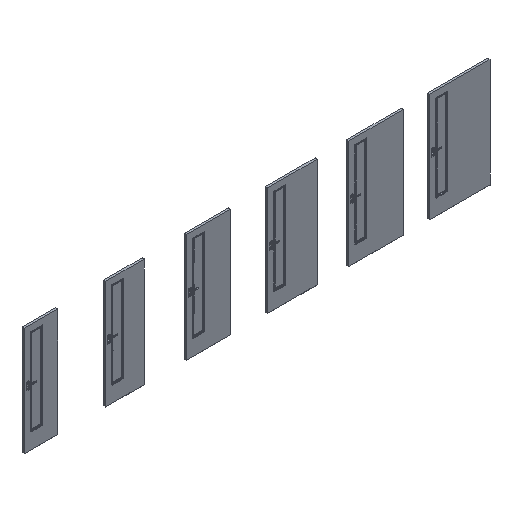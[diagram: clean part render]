
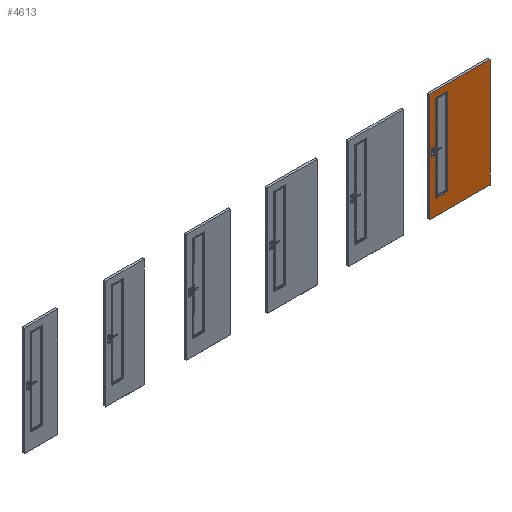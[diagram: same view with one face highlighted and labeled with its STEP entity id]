
A CAD part, isometric view. The second image highlights one B-rep face of the part: STEP entity #4613.
In plain terms, the highlighted planar face has unit normal (0, -1, 0).
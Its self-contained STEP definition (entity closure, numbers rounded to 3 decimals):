
#985=B_SPLINE_CURVE_WITH_KNOTS('',3,(#63229,#63230,#63231,#63232),
 .UNSPECIFIED.,.F.,.F.,(4,4),(0.,1.),.UNSPECIFIED.);
#986=B_SPLINE_CURVE_WITH_KNOTS('',3,(#63235,#63236,#63237,#63238),
 .UNSPECIFIED.,.F.,.F.,(4,4),(0.,1.),.UNSPECIFIED.);
#987=B_SPLINE_CURVE_WITH_KNOTS('',3,(#63240,#63241,#63242,#63243),
 .UNSPECIFIED.,.F.,.F.,(4,4),(0.,1.),.UNSPECIFIED.);
#988=B_SPLINE_CURVE_WITH_KNOTS('',3,(#63245,#63246,#63247,#63248),
 .UNSPECIFIED.,.F.,.F.,(4,4),(0.,1.),.UNSPECIFIED.);
#989=B_SPLINE_CURVE_WITH_KNOTS('',3,(#63250,#63251,#63252,#63253),
 .UNSPECIFIED.,.F.,.F.,(4,4),(0.,1.),.UNSPECIFIED.);
#4613=ADVANCED_FACE('',(#7561,#7562),#6089,.F.);
#6089=PLANE('',#30202);
#7561=FACE_BOUND('',#8577,.T.);
#7562=FACE_BOUND('',#8578,.T.);
#8577=EDGE_LOOP('',(#13685,#13686,#13687,#13688,#13689));
#8578=EDGE_LOOP('',(#13690,#13691,#13692,#13693));
#13685=ORIENTED_EDGE('',*,*,#22475,.T.);
#13686=ORIENTED_EDGE('',*,*,#22476,.T.);
#13687=ORIENTED_EDGE('',*,*,#22477,.T.);
#13688=ORIENTED_EDGE('',*,*,#22478,.T.);
#13689=ORIENTED_EDGE('',*,*,#22479,.T.);
#13690=ORIENTED_EDGE('',*,*,#22480,.T.);
#13691=ORIENTED_EDGE('',*,*,#22481,.T.);
#13692=ORIENTED_EDGE('',*,*,#22482,.F.);
#13693=ORIENTED_EDGE('',*,*,#22483,.F.);
#19185=VERTEX_POINT('',#63233);
#19186=VERTEX_POINT('',#63234);
#19187=VERTEX_POINT('',#63239);
#19188=VERTEX_POINT('',#63244);
#19189=VERTEX_POINT('',#63249);
#19190=VERTEX_POINT('',#63255);
#19191=VERTEX_POINT('',#63256);
#19192=VERTEX_POINT('',#63258);
#19193=VERTEX_POINT('',#63260);
#22475=EDGE_CURVE('',#19185,#19186,#985,.T.);
#22476=EDGE_CURVE('',#19186,#19187,#986,.T.);
#22477=EDGE_CURVE('',#19187,#19188,#987,.T.);
#22478=EDGE_CURVE('',#19188,#19189,#988,.T.);
#22479=EDGE_CURVE('',#19189,#19185,#989,.T.);
#22480=EDGE_CURVE('',#19190,#19191,#25833,.T.);
#22481=EDGE_CURVE('',#19191,#19192,#25834,.T.);
#22482=EDGE_CURVE('',#19193,#19192,#25835,.T.);
#22483=EDGE_CURVE('',#19190,#19193,#25836,.T.);
#25833=LINE('',#63254,#28161);
#25834=LINE('',#63257,#28162);
#25835=LINE('',#63259,#28163);
#25836=LINE('',#63261,#28164);
#28161=VECTOR('',#34652,1.);
#28162=VECTOR('',#34653,1.);
#28163=VECTOR('',#34654,1.);
#28164=VECTOR('',#34655,1.);
#30202=AXIS2_PLACEMENT_3D('',#63262,#34656,#34657);
#34652=DIRECTION('',(0.,0.,-1.));
#34653=DIRECTION('',(1.,0.,0.));
#34654=DIRECTION('',(0.,0.,-1.));
#34655=DIRECTION('',(1.,0.,0.));
#34656=DIRECTION('',(0.,1.,0.));
#34657=DIRECTION('',(-1.,0.,0.));
#63229=CARTESIAN_POINT('',(7523.7,-39.3,298.3));
#63230=CARTESIAN_POINT('',(7487.967,-39.3,298.3));
#63231=CARTESIAN_POINT('',(7452.233,-39.3,298.3));
#63232=CARTESIAN_POINT('',(7416.5,-39.3,298.3));
#63233=CARTESIAN_POINT('',(7523.7,-39.3,298.3));
#63234=CARTESIAN_POINT('',(7416.5,-39.3,298.3));
#63235=CARTESIAN_POINT('',(7416.5,-39.3,298.3));
#63236=CARTESIAN_POINT('',(7380.767,-39.3,298.3));
#63237=CARTESIAN_POINT('',(7345.033,-39.3,298.3));
#63238=CARTESIAN_POINT('',(7309.3,-39.3,298.3));
#63239=CARTESIAN_POINT('',(7309.3,-39.3,298.3));
#63240=CARTESIAN_POINT('',(7309.3,-39.3,298.3));
#63241=CARTESIAN_POINT('',(7309.3,-39.3,832.1));
#63242=CARTESIAN_POINT('',(7309.3,-39.3,1365.9));
#63243=CARTESIAN_POINT('',(7309.3,-39.3,1899.7));
#63244=CARTESIAN_POINT('',(7309.3,-39.3,1899.7));
#63245=CARTESIAN_POINT('',(7309.3,-39.3,1899.7));
#63246=CARTESIAN_POINT('',(7380.767,-39.3,1899.7));
#63247=CARTESIAN_POINT('',(7452.233,-39.3,1899.7));
#63248=CARTESIAN_POINT('',(7523.7,-39.3,1899.7));
#63249=CARTESIAN_POINT('',(7523.7,-39.3,1899.7));
#63250=CARTESIAN_POINT('',(7523.7,-39.3,1899.7));
#63251=CARTESIAN_POINT('',(7523.7,-39.3,1365.9));
#63252=CARTESIAN_POINT('',(7523.7,-39.3,832.1));
#63253=CARTESIAN_POINT('',(7523.7,-39.3,298.3));
#63254=CARTESIAN_POINT('',(7191.,-39.3,2017.));
#63255=CARTESIAN_POINT('',(7191.,-39.3,2017.));
#63256=CARTESIAN_POINT('',(7191.,-39.3,2.));
#63257=CARTESIAN_POINT('',(7191.,-39.3,2.));
#63258=CARTESIAN_POINT('',(8309.,-39.3,2.));
#63259=CARTESIAN_POINT('',(8309.,-39.3,2017.));
#63260=CARTESIAN_POINT('',(8309.,-39.3,2017.));
#63261=CARTESIAN_POINT('',(7191.,-39.3,2017.));
#63262=CARTESIAN_POINT('',(7191.,-39.3,2017.));
